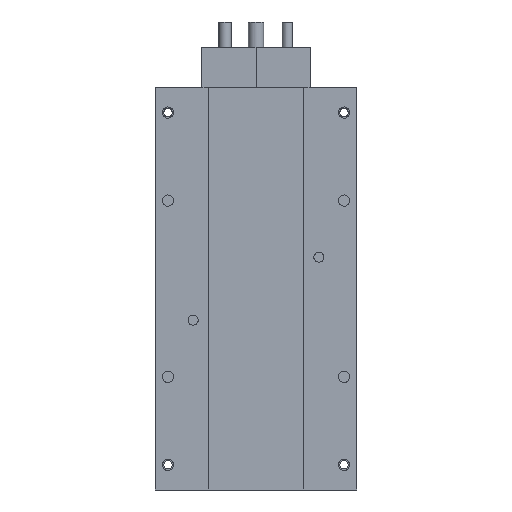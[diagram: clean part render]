
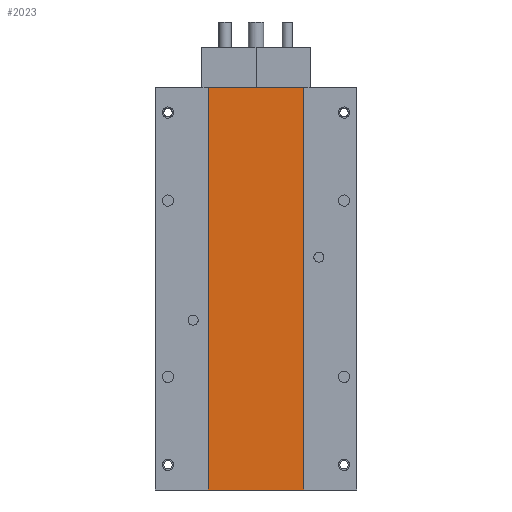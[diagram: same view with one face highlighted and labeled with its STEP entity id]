
A CAD part, front view. The second image highlights one B-rep face of the part: STEP entity #2023.
In plain terms, the highlighted planar face has unit normal (0, -1, 0).
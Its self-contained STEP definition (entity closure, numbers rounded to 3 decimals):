
#49=DIRECTION('',(-1.,0.,0.));
#50=VECTOR('',#49,38.1);
#51=CARTESIAN_POINT('',(19.05,0.25,-80.));
#52=LINE('',#51,#50);
#53=DIRECTION('',(1.,0.,0.));
#54=VECTOR('',#53,38.1);
#55=CARTESIAN_POINT('',(-19.05,0.25,80.));
#56=LINE('',#55,#54);
#57=DIRECTION('',(0.,0.,-1.));
#58=VECTOR('',#57,160.);
#59=CARTESIAN_POINT('',(19.05,0.25,80.));
#60=LINE('',#59,#58);
#61=DIRECTION('',(0.,0.,-1.));
#62=VECTOR('',#61,160.);
#63=CARTESIAN_POINT('',(-19.05,0.25,80.));
#64=LINE('',#63,#62);
#1752=CARTESIAN_POINT('',(19.05,0.25,-80.));
#1754=VERTEX_POINT('',#1752);
#1756=CARTESIAN_POINT('',(-19.05,0.25,-80.));
#1758=VERTEX_POINT('',#1756);
#1760=CARTESIAN_POINT('',(19.05,0.25,80.));
#1762=VERTEX_POINT('',#1760);
#1764=CARTESIAN_POINT('',(-19.05,0.25,80.));
#1766=VERTEX_POINT('',#1764);
#2010=CARTESIAN_POINT('',(19.05,0.25,80.));
#2011=DIRECTION('',(0.,1.,0.));
#2012=DIRECTION('',(-1.,0.,0.));
#2013=AXIS2_PLACEMENT_3D('',#2010,#2011,#2012);
#2014=PLANE('',#2013);
#2015=ORIENTED_EDGE('',*,*,#1990,.T.);
#2017=ORIENTED_EDGE('',*,*,#2016,.F.);
#2019=ORIENTED_EDGE('',*,*,#2018,.T.);
#2020=ORIENTED_EDGE('',*,*,#2001,.T.);
#2021=EDGE_LOOP('',(#2015,#2017,#2019,#2020));
#2022=FACE_OUTER_BOUND('',#2021,.F.);
#2023=ADVANCED_FACE('',(#2022),#2014,.F.);
#1990=EDGE_CURVE('',#1754,#1758,#52,.T.);
#2001=EDGE_CURVE('',#1762,#1754,#60,.T.);
#2016=EDGE_CURVE('',#1766,#1758,#64,.T.);
#2018=EDGE_CURVE('',#1766,#1762,#56,.T.);
